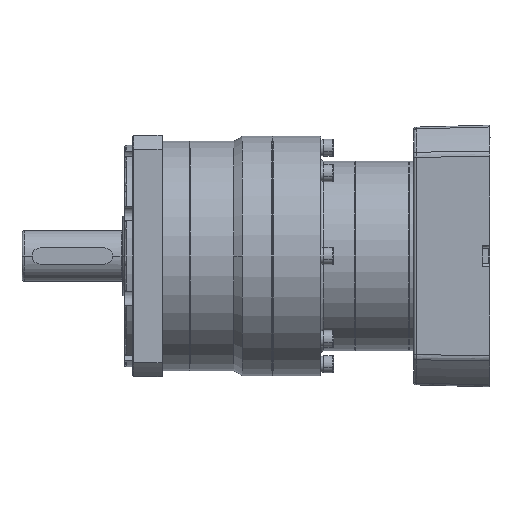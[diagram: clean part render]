
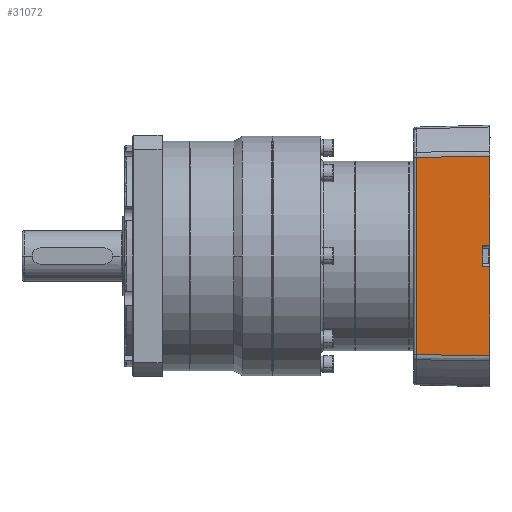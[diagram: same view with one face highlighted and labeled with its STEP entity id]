
A CAD part, front view. The second image highlights one B-rep face of the part: STEP entity #31072.
In plain terms, the highlighted planar face has unit normal (-0.026, -1, 0) as drawn and (0, 1, -0.026) by its records, which use the part's own axes.
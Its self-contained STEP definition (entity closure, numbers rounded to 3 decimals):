
#1346 = AXIS2_PLACEMENT_3D ( 'NONE', #83739, #44943, #5935 ) ;
#5566 = VERTEX_POINT ( 'NONE', #31014 ) ;
#5935 = DIRECTION ( 'NONE',  ( 0., 0.026, 1. ) ) ;
#7370 = ORIENTED_EDGE ( 'NONE', *, *, #78044, .T. ) ;
#8118 = EDGE_CURVE ( 'NONE', #20002, #38972, #48043, .T. ) ;
#8890 = CARTESIAN_POINT ( 'NONE',  ( -23678.958, 26613.807, 23506.461 ) ) ;
#10023 = CARTESIAN_POINT ( 'NONE',  ( -23635.582, 26614.763, 23543. ) ) ;
#11306 = LINE ( 'NONE', #69653, #13312 ) ;
#11771 = LINE ( 'NONE', #26871, #29002 ) ;
#11815 = CARTESIAN_POINT ( 'NONE',  ( -23580.479, 26614.763, 23543. ) ) ;
#12458 = CARTESIAN_POINT ( 'NONE',  ( -23624.732, 26614.75, 23542.491 ) ) ;
#13297 = VECTOR ( 'NONE', #24394, 1000. ) ;
#13312 = VECTOR ( 'NONE', #76144, 1000. ) ;
#13587 = EDGE_CURVE ( 'NONE', #69989, #49809, #58243, .T. ) ;
#14445 = CARTESIAN_POINT ( 'NONE',  ( -23679.298, 26614.763, 23543. ) ) ;
#15861 = FACE_OUTER_BOUND ( 'NONE', #58901, .T. ) ;
#18140 = EDGE_CURVE ( 'NONE', #55338, #20002, #71033, .T. ) ;
#19340 = ORIENTED_EDGE ( 'NONE', *, *, #8118, .T. ) ;
#20002 = VERTEX_POINT ( 'NONE', #41521 ) ;
#20310 = ORIENTED_EDGE ( 'NONE', *, *, #56881, .T. ) ;
#24394 = DIRECTION ( 'NONE',  ( 0.725, 0.018, 0.688 ) ) ;
#26871 = CARTESIAN_POINT ( 'NONE',  ( -23635.045, 26614.75, 23542.491 ) ) ;
#29002 = VECTOR ( 'NONE', #78927, 1000. ) ;
#30671 = LINE ( 'NONE', #38613, #63413 ) ;
#31014 = CARTESIAN_POINT ( 'NONE',  ( -23635.582, 26614.763, 23543. ) ) ;
#31072 = ADVANCED_FACE ( 'NONE', ( #15861 ), #57828, .T. ) ;
#32848 = EDGE_CURVE ( 'NONE', #36633, #55338, #60363, .T. ) ;
#33644 = LINE ( 'NONE', #10023, #68337 ) ;
#34962 = VERTEX_POINT ( 'NONE', #14445 ) ;
#36633 = VERTEX_POINT ( 'NONE', #41936 ) ;
#37092 = DIRECTION ( 'NONE',  ( -0.009, 0.026, 1. ) ) ;
#37238 = ORIENTED_EDGE ( 'NONE', *, *, #63311, .T. ) ;
#38428 = VECTOR ( 'NONE', #49660, 1000. ) ;
#38613 = CARTESIAN_POINT ( 'NONE',  ( -23680.694, 26614.763, 23543. ) ) ;
#38972 = VERTEX_POINT ( 'NONE', #39568 ) ;
#39044 = LINE ( 'NONE', #75215, #71640 ) ;
#39568 = CARTESIAN_POINT ( 'NONE',  ( -23624.195, 26614.763, 23543. ) ) ;
#40704 = ORIENTED_EDGE ( 'NONE', *, *, #13587, .F. ) ;
#41521 = CARTESIAN_POINT ( 'NONE',  ( -23624.732, 26614.75, 23542.491 ) ) ;
#41936 = CARTESIAN_POINT ( 'NONE',  ( -23634.888, 26614.672, 23539.5 ) ) ;
#42972 = VECTOR ( 'NONE', #83005, 1000. ) ;
#44943 = DIRECTION ( 'NONE',  ( 0., 1., -0.026 ) ) ;
#45216 = DIRECTION ( 'NONE',  ( 1., 0., 0. ) ) ;
#45316 = EDGE_CURVE ( 'NONE', #5566, #83275, #33644, .T. ) ;
#46981 = ORIENTED_EDGE ( 'NONE', *, *, #32848, .T. ) ;
#48043 = LINE ( 'NONE', #12458, #13297 ) ;
#49660 = DIRECTION ( 'NONE',  ( 0.052, 0.026, 0.998 ) ) ;
#49677 = CARTESIAN_POINT ( 'NONE',  ( -23624.888, 26614.672, 23539.5 ) ) ;
#49809 = VERTEX_POINT ( 'NONE', #11815 ) ;
#51037 = ORIENTED_EDGE ( 'NONE', *, *, #18140, .T. ) ;
#51290 = DIRECTION ( 'NONE',  ( 1., 0., 0. ) ) ;
#55338 = VERTEX_POINT ( 'NONE', #60995 ) ;
#56492 = CARTESIAN_POINT ( 'NONE',  ( -23680.694, 26614.672, 23539.5 ) ) ;
#56725 = VECTOR ( 'NONE', #51290, 1000. ) ;
#56881 = EDGE_CURVE ( 'NONE', #81835, #34962, #39044, .T. ) ;
#57828 = PLANE ( 'NONE',  #1346 ) ;
#58243 = LINE ( 'NONE', #78972, #73557 ) ;
#58760 = LINE ( 'NONE', #83489, #56725 ) ;
#58901 = EDGE_LOOP ( 'NONE', ( #46981, #51037, #19340, #63742, #40704, #72303, #20310, #7370, #74928, #37238 ) ) ;
#60363 = LINE ( 'NONE', #56492, #42972 ) ;
#60995 = CARTESIAN_POINT ( 'NONE',  ( -23624.888, 26614.672, 23539.5 ) ) ;
#61914 = DIRECTION ( 'NONE',  ( 0.725, -0.018, -0.688 ) ) ;
#63311 = EDGE_CURVE ( 'NONE', #83275, #36633, #11771, .T. ) ;
#63413 = VECTOR ( 'NONE', #45216, 1000. ) ;
#63742 = ORIENTED_EDGE ( 'NONE', *, *, #71609, .T. ) ;
#68337 = VECTOR ( 'NONE', #61914, 1000. ) ;
#69148 = CARTESIAN_POINT ( 'NONE',  ( -23580.819, 26613.807, 23506.461 ) ) ;
#69653 = CARTESIAN_POINT ( 'NONE',  ( -23680.694, 26614.763, 23543. ) ) ;
#69989 = VERTEX_POINT ( 'NONE', #69148 ) ;
#71033 = LINE ( 'NONE', #49677, #38428 ) ;
#71609 = EDGE_CURVE ( 'NONE', #38972, #49809, #30671, .T. ) ;
#71640 = VECTOR ( 'NONE', #37092, 1000. ) ;
#72303 = ORIENTED_EDGE ( 'NONE', *, *, #83321, .F. ) ;
#73557 = VECTOR ( 'NONE', #78246, 1000. ) ;
#74928 = ORIENTED_EDGE ( 'NONE', *, *, #45316, .T. ) ;
#75215 = CARTESIAN_POINT ( 'NONE',  ( -23678.958, 26613.807, 23506.461 ) ) ;
#76144 = DIRECTION ( 'NONE',  ( 1., 0., 0. ) ) ;
#78044 = EDGE_CURVE ( 'NONE', #34962, #5566, #11306, .T. ) ;
#78246 = DIRECTION ( 'NONE',  ( 0.009, 0.026, 1. ) ) ;
#78927 = DIRECTION ( 'NONE',  ( 0.052, -0.026, -0.998 ) ) ;
#78972 = CARTESIAN_POINT ( 'NONE',  ( -23580.479, 26614.763, 23543. ) ) ;
#81835 = VERTEX_POINT ( 'NONE', #8890 ) ;
#82941 = CARTESIAN_POINT ( 'NONE',  ( -23635.045, 26614.75, 23542.491 ) ) ;
#83005 = DIRECTION ( 'NONE',  ( 1., 0., 0. ) ) ;
#83275 = VERTEX_POINT ( 'NONE', #82941 ) ;
#83321 = EDGE_CURVE ( 'NONE', #81835, #69989, #58760, .T. ) ;
#83489 = CARTESIAN_POINT ( 'NONE',  ( -23629.888, 26613.807, 23506.461 ) ) ;
#83739 = CARTESIAN_POINT ( 'NONE',  ( -23680.694, 26614.763, 23543. ) ) ;
